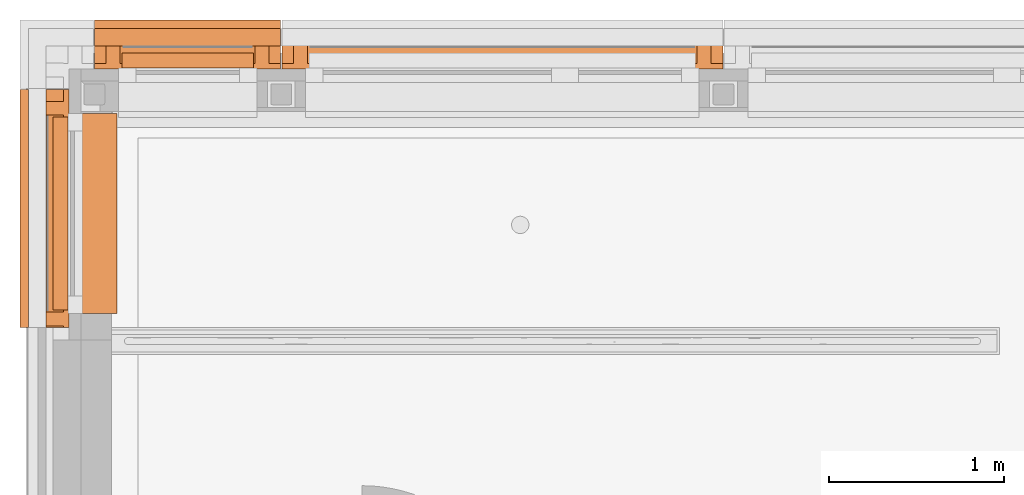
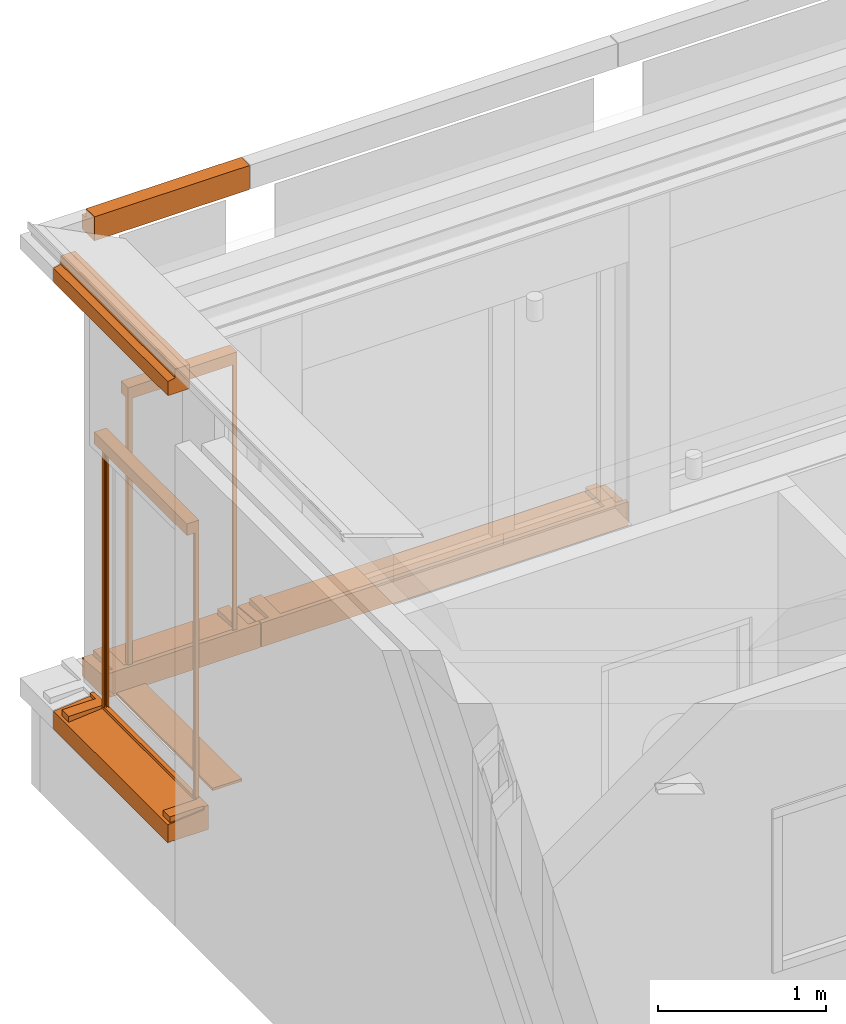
# One storey, part 110 of 128: 8 proxies.
"""IFC2X3 building model written with IfcOpenShell, lengths in millimetres."""

from ifc_helpers import new_model, entity, si_unit, converted_unit, derived_unit, direction, frame, frame_2d, origin, origin_2d_with_axis, place, context, subcontext, project, spatial, polyline, circle_curve, parameter, trimmed, segment, composite_curve, rectangle, outline, extrude, source, transform, mapped, material, material_list, type_object, type_shapes, element, save


model = new_model("IFC2X3")

# Units and contexts
model_context = context("Model", 3, precision=0.01, world=origin(), true_north=direction((6.123031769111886e-17, 1.0)))
body_context = subcontext(model_context, "Body", "Model", "MODEL_VIEW")
ifc_project = project(units=[si_unit("LENGTHUNIT", "METRE", prefix="MILLI"), si_unit("AREAUNIT", "SQUARE_METRE"), si_unit("VOLUMEUNIT", "CUBIC_METRE"), converted_unit("PLANEANGLEUNIT", "DEGREE", entity("IfcRatioMeasure", 0.017453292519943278), si_unit("PLANEANGLEUNIT", "RADIAN"), dimensions=[0, 0, 0, 0, 0, 0, 0]), si_unit("MASSUNIT", "GRAM", prefix="KILO"), derived_unit("MASSDENSITYUNIT", [(si_unit("MASSUNIT", "GRAM", prefix="KILO"), 1), (si_unit("LENGTHUNIT", "METRE"), -3)]), derived_unit("IONCONCENTRATIONUNIT", [(si_unit("MASSUNIT", "GRAM", prefix="KILO"), 1), (si_unit("LENGTHUNIT", "METRE"), -3)]), derived_unit("MOMENTOFINERTIAUNIT", [(si_unit("LENGTHUNIT", "METRE"), 4)]), si_unit("TIMEUNIT", "SECOND"), si_unit("FREQUENCYUNIT", "HERTZ"), si_unit("THERMODYNAMICTEMPERATUREUNIT", "DEGREE_CELSIUS"), derived_unit("THERMALTRANSMITTANCEUNIT", [(si_unit("MASSUNIT", "GRAM", prefix="KILO"), 1), (si_unit("THERMODYNAMICTEMPERATUREUNIT", "KELVIN"), -1), (si_unit("TIMEUNIT", "SECOND"), -3)]), derived_unit("THERMALCONDUCTANCEUNIT", [(si_unit("MASSUNIT", "GRAM", prefix="KILO"), 1), (si_unit("THERMODYNAMICTEMPERATUREUNIT", "KELVIN"), -1), (si_unit("TIMEUNIT", "SECOND"), -3), (si_unit("LENGTHUNIT", "METRE"), 1)]), derived_unit("VOLUMETRICFLOWRATEUNIT", [(si_unit("LENGTHUNIT", "METRE"), 3), (si_unit("TIMEUNIT", "SECOND"), -1)]), derived_unit("MASSFLOWRATEUNIT", [(si_unit("MASSUNIT", "GRAM", prefix="KILO"), 1), (si_unit("TIMEUNIT", "SECOND"), -1)]), derived_unit("ROTATIONALFREQUENCYUNIT", [(si_unit("TIMEUNIT", "SECOND"), -1)]), si_unit("ELECTRICCURRENTUNIT", "AMPERE"), si_unit("ELECTRICVOLTAGEUNIT", "VOLT"), si_unit("POWERUNIT", "WATT"), si_unit("FORCEUNIT", "NEWTON", prefix="KILO"), si_unit("ILLUMINANCEUNIT", "LUX"), si_unit("LUMINOUSFLUXUNIT", "LUMEN"), si_unit("LUMINOUSINTENSITYUNIT", "CANDELA"), derived_unit("USERDEFINED", [(si_unit("MASSUNIT", "GRAM", prefix="KILO"), -1), (si_unit("LENGTHUNIT", "METRE"), -2), (si_unit("TIMEUNIT", "SECOND"), 3), (si_unit("LUMINOUSFLUXUNIT", "LUMEN"), 1)]), derived_unit("USERDEFINED", [(si_unit("MASSUNIT", "GRAM", prefix="KILO"), 1), (si_unit("TIMEUNIT", "SECOND"), -3), (si_unit("LENGTHUNIT", "METRE"), 3), (si_unit("ELECTRICCURRENTUNIT", "AMPERE"), -2)]), derived_unit("SOUNDPOWERUNIT", [(si_unit("MASSUNIT", "GRAM", prefix="KILO"), 1), (si_unit("TIMEUNIT", "SECOND"), -3), (si_unit("LENGTHUNIT", "METRE"), 2)]), derived_unit("SOUNDPRESSUREUNIT", [(si_unit("MASSUNIT", "GRAM", prefix="KILO"), 1), (si_unit("LENGTHUNIT", "METRE"), -1), (si_unit("TIMEUNIT", "SECOND"), -2)]), derived_unit("LINEARVELOCITYUNIT", [(si_unit("LENGTHUNIT", "METRE"), 1), (si_unit("TIMEUNIT", "SECOND"), -1)]), si_unit("PRESSUREUNIT", "PASCAL"), derived_unit("USERDEFINED", [(si_unit("MASSUNIT", "GRAM", prefix="KILO"), 1), (si_unit("LENGTHUNIT", "METRE"), -2), (si_unit("TIMEUNIT", "SECOND"), -2)]), derived_unit("LINEARFORCEUNIT", [(si_unit("MASSUNIT", "GRAM", prefix="KILO"), 1), (si_unit("TIMEUNIT", "SECOND"), -2)]), derived_unit("PLANARFORCEUNIT", [(si_unit("MASSUNIT", "GRAM", prefix="KILO"), 1), (si_unit("LENGTHUNIT", "METRE"), -1), (si_unit("TIMEUNIT", "SECOND"), -2)]), derived_unit("SPECIFICHEATCAPACITYUNIT", [(si_unit("THERMODYNAMICTEMPERATUREUNIT", "KELVIN"), -1), (si_unit("LENGTHUNIT", "METRE"), 2), (si_unit("TIMEUNIT", "SECOND"), -2)]), derived_unit("HEATINGVALUEUNIT", [(si_unit("LENGTHUNIT", "METRE"), 2), (si_unit("TIMEUNIT", "SECOND"), -2)]), derived_unit("VAPORPERMEABILITYUNIT", [(si_unit("LENGTHUNIT", "METRE"), -1), (si_unit("TIMEUNIT", "SECOND"), 1)]), derived_unit("DYNAMICVISCOSITYUNIT", [(si_unit("MASSUNIT", "GRAM", prefix="KILO"), 1), (si_unit("TIMEUNIT", "SECOND"), -1), (si_unit("LENGTHUNIT", "METRE"), -1)]), derived_unit("THERMALEXPANSIONCOEFFICIENTUNIT", [(si_unit("THERMODYNAMICTEMPERATUREUNIT", "KELVIN"), -1)]), derived_unit("MODULUSOFELASTICITYUNIT", [(si_unit("MASSUNIT", "GRAM", prefix="KILO"), 1), (si_unit("LENGTHUNIT", "METRE"), -1), (si_unit("TIMEUNIT", "SECOND"), -2)]), derived_unit("ISOTHERMALMOISTURECAPACITYUNIT", [(si_unit("LENGTHUNIT", "METRE"), 3), (si_unit("MASSUNIT", "GRAM", prefix="KILO"), -1)]), derived_unit("MOISTUREDIFFUSIVITYUNIT", [(si_unit("TIMEUNIT", "SECOND"), -1), (si_unit("LENGTHUNIT", "METRE"), 2)])], contexts=[model_context])

# Site, building, storey
site_placement = place(None, frame((0.0, 300.0, 0.0)))
site = spatial("IfcSite", under=ifc_project, at=site_placement, Name="<Kadastrale nummers>", CompositionType="ELEMENT")
building_placement = place(site_placement, origin())
building = spatial("IfcBuilding", under=site, at=building_placement, CompositionType="ELEMENT")
storey_placement = place(building_placement, frame((0.0, 0.0, 3560.0000331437)))
storey = spatial("IfcBuildingStorey", under=building, at=storey_placement, Name="01 eerste verdieping", CompositionType="ELEMENT", Elevation=3560.0000331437)

# Proxies
ifc_material_1 = material(Name="ISR_Beton_prefab")
building_element_proxy_type_1 = type_object("IfcBuildingElementProxyType", Name="29_DAT_Prefab betonnen waterslag lang:22", PredefinedType="NOTDEFINED", material=ifc_material_1)
shared_shape_1 = source(origin(), body_context, "Body", "SweptSolid", [
    extrude(outline(polyline([(-16.052237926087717, -115.0), (26.113434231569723, -115.0), (5.9910416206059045, 115.0), (-16.052237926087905, 115.0), (-16.052237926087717, -115.0)])), frame((2377.0, 75.0, -16.05223792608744), z_axis=(1.0, 0.0, 0.0), x_axis=(0.0, 0.0, -1.0)), (0.0, 0.0, 1.0), 79.99999999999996),
    extrude(outline(polyline([(-16.052237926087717, -115.0), (26.113434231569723, -115.0), (5.9910416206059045, 115.0), (-16.052237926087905, 115.0), (-16.052237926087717, -115.0)])), frame((67.0, 75.0, -16.05223792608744), z_axis=(1.0, 0.0, 0.0), x_axis=(0.0, 0.0, -1.0)), (0.0, 0.0, 1.0), 80.00000000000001),
    extrude(outline(composite_curve([segment(polyline([(-140.0, -95.7340207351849), (-110.0, -95.7340207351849)]), True, "CONTINUOUS"), segment(polyline([(-110.0, -95.7340207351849), (-110.0, -73.7340207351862)]), True, "CONTINUOUS"), segment(polyline([(-110.0, -73.7340207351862), (140.0, -51.861854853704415)]), True, "CONTINUOUS"), segment(polyline([(140.0, -51.86185485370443), (140.0, 79.26597926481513)]), True, "CONTINUOUS"), segment(polyline([(140.0, 79.26597926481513), (115.0, 79.26597926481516)]), True, "CONTINUOUS"), segment(trimmed(circle_curve(frame_2d((110.0, 79.26597926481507), x_axis=(1.0, 0.0)), 5.000000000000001), [parameter(179.99999999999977)], [parameter(4.0711099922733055e-13)], True, "PARAMETER"), False, "CONTINUOUS"), segment(polyline([(105.0, 79.26597926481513), (-140.0, 79.26597926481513)]), True, "CONTINUOUS"), segment(polyline([(-140.0, 79.26597926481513), (-140.0, -95.7340207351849)]), True, "CONTINUOUS")], self_intersect=False)), frame((0.0, 80.0, -95.73402073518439), z_axis=(1.0, 0.0, 0.0), x_axis=(0.0, -1.0, 0.0)), (0.0, 0.0, 1.0), 2524.0000000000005),
])
type_shapes(building_element_proxy_type_1, [shared_shape_1])
proxy_1_placement = place(storey_placement, frame((6597.0, 50165.0, 890.0000018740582), z_axis=(0.0, 0.0, 1.0), x_axis=(-1.0, 0.0, 0.0)))
element("IfcBuildingElementProxy", 1, at=proxy_1_placement, inside=storey, type_object=building_element_proxy_type_1, material=ifc_material_1, Name="29_DAT_Prefab betonnen waterslag lang:22", ObjectType="29_DAT_Prefab betonnen waterslag lang:22", context=body_context, shape_type="MappedRepresentation", body=[
    mapped(shared_shape_1, transform((0.0, 0.0, 0.0), scale=1.0)),
])
ifc_material_2 = material(Name="STAAL_RAL 7006")
ifc_material_3 = material(Name="<Unnamed>")
ifc_material_list = material_list([ifc_material_2, ifc_material_3])
building_element_proxy_type_2 = type_object("IfcBuildingElementProxyType", Name="31_DAT_Screen_zonwering_bak85:31_DAT_Screen_zonwering_bak85", PredefinedType="NOTDEFINED", material=ifc_material_list)
shared_shape_2 = source(origin(), body_context, "Body", "SweptSolid", [
    extrude(outline(polyline([(-60.69864841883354, -53.573897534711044), (20.695945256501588, -53.573897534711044), (20.695945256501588, 1.1216926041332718), (22.501351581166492, 1.1216926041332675), (22.501351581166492, 24.626102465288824), (17.501351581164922, 24.626102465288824), (17.501351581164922, 27.826102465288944), (-60.69864841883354, 27.826102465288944), (-60.69864841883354, -53.573897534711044)])), frame((748.0, -29.62610246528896, 2752.501351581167), z_axis=(1.0, 0.0, 0.0), x_axis=(0.0, 0.0, -1.0)), (0.0, 0.0, 1.0), 1.9999999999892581),
    extrude(outline(polyline([(-55.83243227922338, -51.08259835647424), (29.167567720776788, -51.08259835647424), (29.167567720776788, 5.412991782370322), (27.362161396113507, 5.412991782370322), (27.362161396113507, -49.28259835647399), (-54.032432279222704, -49.28259835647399), (-54.032432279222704, 32.117401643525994), (24.16756772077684, 32.117401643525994), (24.16756772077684, 28.91740164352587), (29.167567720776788, 28.91740164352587), (29.167567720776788, 33.917401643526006), (-55.83243227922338, 33.917401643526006), (-55.83243227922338, -51.08259835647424)])), frame((0.0, -33.917401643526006, 2759.1675677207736), z_axis=(1.0, 0.0, 0.0), x_axis=(0.0, 0.0, -1.0)), (0.0, 0.0, 1.0), 749.9999999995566),
    extrude(outline(polyline([(-60.69864841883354, -53.573897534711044), (20.695945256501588, -53.573897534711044), (20.695945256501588, 1.1216926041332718), (22.501351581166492, 1.1216926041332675), (22.501351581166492, 24.626102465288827), (17.501351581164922, 24.626102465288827), (17.501351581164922, 27.826102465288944), (-60.69864841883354, 27.826102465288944), (-60.69864841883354, -53.573897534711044)])), frame((0.0, -29.62610246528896, 2752.501351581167), z_axis=(1.0, 0.0, 0.0), x_axis=(0.0, 0.0, -1.0)), (0.0, 0.0, 1.0), 1.999999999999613),
    extrude(rectangle(XDim=709.9999999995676, YDim=1.163311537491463, at=frame_2d((0.0, -2.1094237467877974e-15), x_axis=(1.0, 0.0))), frame((375.0, -20.037293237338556, 2730.0)), (0.0, 0.0, 1.0), 61.996041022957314),
    extrude(outline(composite_curve([segment(polyline([(-7.502327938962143, -23.023758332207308), (7.497672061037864, -23.023758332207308)]), True, "CONTINUOUS"), segment(trimmed(circle_curve(frame_2d((7.497672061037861, -21.523758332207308), x_axis=(0.0, -1.0)), 1.4999999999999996), [parameter(359.99999999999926)], [parameter(90.00000000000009)], True, "PARAMETER"), True, "CONTINUOUS"), segment(polyline([(8.997672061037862, -21.523758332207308), (8.997672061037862, 8.976241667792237)]), True, "CONTINUOUS"), segment(trimmed(circle_curve(frame_2d((5.99767206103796, 8.976241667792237), x_axis=(0.0, -1.0)), 3.0), [parameter(90.00000000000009)], [parameter(172.84454900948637)], True, "PARAMETER"), True, "CONTINUOUS"), segment(polyline([(6.371357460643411, 11.952877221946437), (2.232090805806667, 12.470504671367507)]), True, "CONTINUOUS"), segment(trimmed(circle_curve(frame_2d((2.1399803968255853, 11.733933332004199), x_axis=(0.0, -1.0)), 0.7423083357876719), [parameter(172.87199730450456)], [parameter(323.5235343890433)], True, "PARAMETER"), True, "CONTINUOUS"), segment(trimmed(circle_curve(frame_2d((-0.0023279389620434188, 8.976241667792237), x_axis=(0.0, -1.0)), 2.75), [parameter(217.47327986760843)], [parameter(141.78969998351)], True, "PARAMETER"), False, "CONTINUOUS"), segment(trimmed(circle_curve(frame_2d((-2.144636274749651, 11.733933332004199), x_axis=(0.0, -1.0)), 0.7423083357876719), [parameter(39.207114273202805)], [parameter(187.12800269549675)], True, "PARAMETER"), True, "CONTINUOUS"), segment(polyline([(-2.2367466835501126, 12.470504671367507), (-6.376013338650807, 11.95287722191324)]), True, "CONTINUOUS"), segment(trimmed(circle_curve(frame_2d((-6.002327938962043, 8.976241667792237), x_axis=(0.0, -1.0)), 3.0), [parameter(187.1554509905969)], [parameter(269.9999999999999)], True, "PARAMETER"), True, "CONTINUOUS"), segment(polyline([(-9.002327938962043, 8.976241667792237), (-9.002327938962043, -21.523758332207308)]), True, "CONTINUOUS"), segment(trimmed(circle_curve(frame_2d((-7.502327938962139, -21.523758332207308), x_axis=(0.0, -1.0)), 1.5000000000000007), [parameter(269.9999999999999)], [parameter(359.9999999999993)], True, "PARAMETER"), True, "CONTINUOUS")], self_intersect=False)), frame((20.0, -19.997672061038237, 2785.0197993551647), z_axis=(1.0, 0.0, 0.0), x_axis=(0.0, 1.0, 0.0)), (0.0, 0.0, 1.0), 709.9999999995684),
    extrude(outline(polyline([(-14.638298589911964, -16.231574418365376), (-13.138298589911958, -16.231574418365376), (-13.138298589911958, 12.232729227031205), (-6.116685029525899, 12.232729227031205), (-6.116685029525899, -6.231574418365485), (-1.116685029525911, -6.231574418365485), (-1.116685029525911, -4.769580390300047), (-4.579546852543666, -4.769580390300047), (-4.579546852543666, 12.23272922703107), (13.86611127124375, 12.23272922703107), (13.86611127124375, -4.769580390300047), (10.36170141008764, -4.769580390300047), (10.36170141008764, -6.2315744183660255), (15.36170141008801, -6.2315744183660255), (15.36170141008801, 13.768425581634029), (-14.638298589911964, 13.768425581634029), (-14.638298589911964, -16.231574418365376)])), frame((736.2315744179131, -14.638298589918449, 800.0), z_axis=(0.0, 0.0, 1.0), x_axis=(0.0, -1.0, 0.0)), (0.0, 0.0, 1.0), 1930.000000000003),
    extrude(outline(polyline([(-16.231574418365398, -14.638298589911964), (13.768425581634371, -14.638298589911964), (13.76842558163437, 15.361701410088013), (-6.231574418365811, 15.361701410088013), (-6.231574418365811, 10.361701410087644), (-4.769580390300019, 10.361701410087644), (-4.769580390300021, 13.866111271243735), (12.2327292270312, 13.866111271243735), (12.2327292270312, -4.57954685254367), (-4.769580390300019, -4.57954685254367), (-4.769580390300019, -1.1166850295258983), (-6.231574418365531, -1.1166850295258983), (-6.231574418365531, -6.116685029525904), (12.232729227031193, -6.116685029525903), (12.232729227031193, -13.138298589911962), (-16.231574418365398, -13.138298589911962), (-16.231574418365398, -14.638298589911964)])), frame((13.768425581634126, -14.638298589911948, 800.0), z_axis=(0.0, 0.0, 1.0), x_axis=(-1.0, 0.0, 0.0)), (0.0, 0.0, 1.0), 1930.0000000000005),
])
type_shapes(building_element_proxy_type_2, [shared_shape_2])
proxy_2_placement = place(storey_placement, frame((3910.0, 49951.0, 100.00000187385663), z_axis=(0.0, 0.0, 1.0), x_axis=(-1.0, 0.0, 0.0)))
element("IfcBuildingElementProxy", 2, at=proxy_2_placement, inside=storey, type_object=building_element_proxy_type_2, material=ifc_material_list, Name="31_DAT_Screen_zonwering_bak85:31_DAT_Screen_zonwering_bak85", ObjectType="31_DAT_Screen_zonwering_bak85:31_DAT_Screen_zonwering_bak85", context=body_context, shape_type="MappedRepresentation", body=[
    mapped(shared_shape_2, transform((0.0, 0.0, 0.0), scale=1.0)),
])
building_element_proxy_type_3 = type_object("IfcBuildingElementProxyType", Name="29_DAT_Prefab betonnen waterslag lang:25", PredefinedType="NOTDEFINED", material=ifc_material_1)
shared_shape_3 = source(origin(), body_context, "Body", "SweptSolid", [
    extrude(outline(polyline([(-115.0, -16.052237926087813), (115.0, -16.05223792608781), (115.0, 5.991041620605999), (-115.0, 26.113434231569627), (-115.0, -16.052237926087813)])), frame((1215.0, -75.0, -16.05223792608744), z_axis=(1.0, 0.0, 0.0), x_axis=(0.0, -1.0, 0.0)), (0.0, 0.0, 1.0), 79.99999999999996),
    extrude(outline(polyline([(-115.0, -16.052237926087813), (115.0, -16.05223792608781), (115.0, 5.991041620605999), (-115.0, 26.113434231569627), (-115.0, -16.052237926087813)])), frame((10.0, -75.0, -16.05223792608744), z_axis=(1.0, 0.0, 0.0), x_axis=(0.0, -1.0, 0.0)), (0.0, 0.0, 1.0), 80.00000000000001),
    extrude(outline(composite_curve([segment(polyline([(-95.7340207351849, -140.0), (79.26597926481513, -140.0)]), True, "CONTINUOUS"), segment(polyline([(79.26597926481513, -140.0), (79.26597926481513, 105.0)]), True, "CONTINUOUS"), segment(trimmed(circle_curve(frame_2d((79.26597926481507, 110.0), x_axis=(0.0, 1.0)), 5.000000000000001), [parameter(359.9999999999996)], [parameter(180.00000000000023)], True, "PARAMETER"), False, "CONTINUOUS"), segment(polyline([(79.26597926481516, 115.0), (79.26597926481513, 140.0)]), True, "CONTINUOUS"), segment(polyline([(79.26597926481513, 140.0), (-51.86185485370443, 140.0)]), True, "CONTINUOUS"), segment(polyline([(-51.861854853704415, 140.0), (-73.7340207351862, -110.0)]), True, "CONTINUOUS"), segment(polyline([(-73.7340207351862, -110.0), (-95.7340207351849, -110.0)]), True, "CONTINUOUS"), segment(polyline([(-95.7340207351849, -110.0), (-95.7340207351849, -140.0)]), True, "CONTINUOUS")], self_intersect=False)), frame((0.0, -80.0, -95.73402073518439), z_axis=(1.0, 0.0, 0.0), x_axis=(0.0, 0.0, -1.0)), (0.0, 0.0, 1.0), 1362.0000000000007),
])
type_shapes(building_element_proxy_type_3, [shared_shape_3])
proxy_3_placement = place(storey_placement, frame((2635.0, 48465.0, 890.0000018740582), z_axis=(0.0, 0.0, 1.0), x_axis=(0.0, 1.0, 0.0)))
element("IfcBuildingElementProxy", 3, at=proxy_3_placement, inside=storey, type_object=building_element_proxy_type_3, material=ifc_material_1, Name="29_DAT_Prefab betonnen waterslag lang:25", ObjectType="29_DAT_Prefab betonnen waterslag lang:25", context=body_context, shape_type="MappedRepresentation", body=[
    mapped(shared_shape_3, transform((0.0, 0.0, 0.0), scale=1.0)),
])
building_element_proxy_type_4 = type_object("IfcBuildingElementProxyType", Name="31_DAT_Screen_zonwering_bak85:31_DAT_Screen_zonwering_bak85", PredefinedType="NOTDEFINED", material=ifc_material_list)
shared_shape_4 = source(origin(), body_context, "Body", "SweptSolid", [
    extrude(outline(polyline([(-53.573897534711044, -60.698648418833), (27.826102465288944, -60.698648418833), (27.826102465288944, 17.501351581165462), (24.626102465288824, 17.501351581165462), (24.626102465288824, 22.501351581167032), (1.1216926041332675, 22.501351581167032), (1.1216926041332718, 20.695945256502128), (-53.573897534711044, 20.695945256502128), (-53.573897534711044, -60.698648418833)])), frame((1103.0, 29.62610246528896, 2752.5013515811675), z_axis=(1.0, 0.0, 0.0), x_axis=(0.0, -1.0, 0.0)), (0.0, 0.0, 1.0), 1.9999999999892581),
    extrude(outline(polyline([(-51.082598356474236, -55.832432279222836), (33.91740164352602, -55.832432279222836), (33.91740164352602, 29.167567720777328), (28.91740164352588, 29.167567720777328), (28.91740164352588, 24.16756772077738), (32.117401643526, 24.16756772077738), (32.117401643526, -54.032432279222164), (-49.28259835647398, -54.032432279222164), (-49.28259835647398, 27.362161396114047), (5.41299178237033, 27.362161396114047), (5.41299178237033, 29.167567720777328), (-51.082598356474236, 29.167567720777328), (-51.082598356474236, -55.832432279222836)])), frame((0.0, 33.91740164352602, 2759.167567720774), z_axis=(1.0, 0.0, 0.0), x_axis=(0.0, -1.0, 0.0)), (0.0, 0.0, 1.0), 1104.9999999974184),
    extrude(outline(polyline([(-53.573897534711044, -60.698648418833), (27.826102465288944, -60.698648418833), (27.826102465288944, 17.501351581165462), (24.626102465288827, 17.501351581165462), (24.626102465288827, 22.501351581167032), (1.1216926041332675, 22.501351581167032), (1.1216926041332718, 20.695945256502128), (-53.573897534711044, 20.695945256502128), (-53.573897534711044, -60.698648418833)])), frame((0.0, 29.62610246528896, 2752.5013515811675), z_axis=(1.0, 0.0, 0.0), x_axis=(0.0, -1.0, 0.0)), (0.0, 0.0, 1.0), 1.999999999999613),
    extrude(rectangle(XDim=1.163311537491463, YDim=1064.9999999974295, at=frame_2d((2.1094237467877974e-15, 0.0), x_axis=(1.0, 0.0))), frame((552.4999999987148, 20.03729323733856, 2730.0), z_axis=(0.0, 0.0, 1.0), x_axis=(0.0, -1.0, 0.0)), (0.0, 0.0, 1.0), 39.999964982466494),
    extrude(outline(composite_curve([segment(trimmed(circle_curve(frame_2d((21.52375833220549, 7.502327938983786), x_axis=(1.0, 0.0)), 1.5000000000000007), [parameter(6.615553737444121e-13)], [parameter(90.00000000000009)], True, "PARAMETER"), True, "CONTINUOUS"), segment(polyline([(21.52375833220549, 9.00232793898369), (-8.976241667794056, 9.00232793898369)]), True, "CONTINUOUS"), segment(trimmed(circle_curve(frame_2d((-8.976241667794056, 6.00232793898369), x_axis=(1.0, 0.0)), 3.0), [parameter(90.00000000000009)], [parameter(172.8445490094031)], True, "PARAMETER"), True, "CONTINUOUS"), segment(polyline([(-11.952877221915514, 6.376013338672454), (-12.470504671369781, 2.2367466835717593)]), True, "CONTINUOUS"), segment(trimmed(circle_curve(frame_2d((-11.733933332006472, 2.1446362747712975), x_axis=(1.0, 0.0)), 0.7423083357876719), [parameter(172.87199730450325)], [parameter(320.7928857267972)], True, "PARAMETER"), True, "CONTINUOUS"), segment(trimmed(circle_curve(frame_2d((-8.976241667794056, 0.002327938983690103), x_axis=(1.0, 0.0)), 2.75), [parameter(218.21030001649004)], [parameter(142.52672013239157)], True, "PARAMETER"), False, "CONTINUOUS"), segment(trimmed(circle_curve(frame_2d((-11.733933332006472, -2.1399803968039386), x_axis=(1.0, 0.0)), 0.7423083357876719), [parameter(36.476465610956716)], [parameter(187.12800269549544)], True, "PARAMETER"), True, "CONTINUOUS"), segment(polyline([(-12.470504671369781, -2.2320908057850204), (-11.952877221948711, -6.3713574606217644)]), True, "CONTINUOUS"), segment(trimmed(circle_curve(frame_2d((-8.976241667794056, -5.9976720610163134), x_axis=(1.0, 0.0)), 3.0), [parameter(187.15545099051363)], [parameter(269.9999999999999)], True, "PARAMETER"), True, "CONTINUOUS"), segment(polyline([(-8.976241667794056, -8.997672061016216), (21.52375833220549, -8.997672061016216)]), True, "CONTINUOUS"), segment(trimmed(circle_curve(frame_2d((21.52375833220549, -7.497672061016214), x_axis=(1.0, 0.0)), 1.4999999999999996), [parameter(269.9999999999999)], [parameter(7.124442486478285e-13)], True, "PARAMETER"), True, "CONTINUOUS"), segment(polyline([(23.023758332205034, -7.4976720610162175), (23.023758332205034, 7.50232793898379)]), True, "CONTINUOUS")], self_intersect=False)), frame((20.0, 19.99767206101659, 2763.0237233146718), z_axis=(1.0, 0.0, 0.0), x_axis=(0.0, 0.0, -1.0)), (0.0, 0.0, 1.0), 1064.99999999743),
    extrude(outline(polyline([(-16.231574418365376, -14.63829858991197), (13.768425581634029, -14.63829858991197), (13.768425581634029, 15.361701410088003), (-6.2315744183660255, 15.361701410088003), (-6.2315744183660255, 10.361701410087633), (-4.769580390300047, 10.361701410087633), (-4.769580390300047, 13.866111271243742), (12.23272922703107, 13.866111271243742), (12.23272922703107, -4.579546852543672), (-4.769580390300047, -4.579546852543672), (-4.769580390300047, -1.1166850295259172), (-6.231574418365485, -1.1166850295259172), (-6.231574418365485, -6.116685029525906), (12.232729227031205, -6.116685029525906), (12.232729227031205, -13.138298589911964), (-16.231574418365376, -13.138298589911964), (-16.231574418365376, -14.63829858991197)])), frame((1091.231574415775, 14.63829858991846, 800.0)), (0.0, 0.0, 1.0), 1930.000000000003),
    extrude(outline(polyline([(-14.638298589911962, -16.231574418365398), (-13.13829858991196, -16.231574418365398), (-13.13829858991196, 12.232729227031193), (-6.116685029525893, 12.232729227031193), (-6.116685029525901, -6.231574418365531), (-1.116685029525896, -6.231574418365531), (-1.116685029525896, -4.769580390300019), (-4.579546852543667, -4.769580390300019), (-4.579546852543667, 12.2327292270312), (13.866111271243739, 12.2327292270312), (13.866111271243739, -4.769580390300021), (10.361701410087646, -4.769580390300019), (10.361701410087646, -6.231574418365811), (15.361701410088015, -6.231574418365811), (15.361701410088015, 13.76842558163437), (-14.638298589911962, 13.76842558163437), (-14.638298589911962, -16.231574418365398)])), frame((13.768425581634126, 14.638298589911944, 800.0), z_axis=(0.0, 0.0, 1.0), x_axis=(0.0, 1.0, 0.0)), (0.0, 0.0, 1.0), 1930.0000000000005),
])
type_shapes(building_element_proxy_type_4, [shared_shape_4])
proxy_4_placement = place(storey_placement, frame((2848.998623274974, 48565.0, 90.00000187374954), z_axis=(0.0, 0.0, 1.0), x_axis=(0.0, 1.0, 0.0)))
element("IfcBuildingElementProxy", 4, at=proxy_4_placement, inside=storey, type_object=building_element_proxy_type_4, material=ifc_material_list, Name="31_DAT_Screen_zonwering_bak85:31_DAT_Screen_zonwering_bak85", ObjectType="31_DAT_Screen_zonwering_bak85:31_DAT_Screen_zonwering_bak85", context=body_context, shape_type="MappedRepresentation", body=[
    mapped(shared_shape_4, transform((0.0, 0.0, 0.0), scale=1.0)),
])
building_element_proxy_type_5 = type_object("IfcBuildingElementProxyType", Name="29_DAT_Prefab betonband afgeschuind:29_DAT_Prefab betonband afgeschuind", PredefinedType="NOTDEFINED", material=ifc_material_1)
shared_shape_5 = source(origin(), body_context, "Body", "SweptSolid", [
    extrude(outline(polyline([(-83.33333333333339, -94.16666666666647), (66.66666666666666, -94.16666666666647), (66.66666666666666, 8.333333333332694), (16.66666666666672, 18.33333333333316), (16.666666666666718, 80.83333333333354), (-83.33333333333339, 80.83333333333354), (-83.33333333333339, -94.16666666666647)])), frame((0.0, -16.66666666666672, -18.33333333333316), z_axis=(1.0, 0.0, 0.0), x_axis=(0.0, 1.0, 0.0)), (0.0, 0.0, 1.0), 1361.9999999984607),
])
type_shapes(building_element_proxy_type_5, [shared_shape_5])
proxy_5_placement = place(storey_placement, frame((2625.0, 48465.0, 4077.499966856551), z_axis=(0.0, 0.0, 1.0), x_axis=(0.0, 1.0, 0.0)))
element("IfcBuildingElementProxy", 5, at=proxy_5_placement, inside=storey, type_object=building_element_proxy_type_5, material=ifc_material_1, Name="29_DAT_Prefab betonband afgeschuind:29_DAT_Prefab betonband afgeschuind", ObjectType="29_DAT_Prefab betonband afgeschuind:29_DAT_Prefab betonband afgeschuind", context=body_context, shape_type="MappedRepresentation", body=[
    mapped(shared_shape_5, transform((0.0, 0.0, 0.0), scale=1.0)),
])
ifc_material_4 = material(Name="e1_natuursteen")
building_element_proxy_type_6 = type_object("IfcBuildingElementProxyType", Name="NLRS_31_GM_WPB_vensterbank natuursteen -SH_gen_ASN:200x18", PredefinedType="USERDEFINED", material=ifc_material_4)
shared_shape_6 = source(origin(), body_context, "Body", "SweptSolid", [
    extrude(rectangle(XDim=200.0, YDim=1144.9999999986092, at=origin_2d_with_axis()), frame((0.0, -100.0, 0.0), z_axis=(0.0, 0.0, 1.0), x_axis=(0.0, -1.0, 0.0)), (0.0, 0.0, 1.0), 17.999999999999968),
])
type_shapes(building_element_proxy_type_6, [shared_shape_6])
proxy_6_placement = place(storey_placement, frame((2930.0, 49117.49999999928, 920.0000018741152), z_axis=(0.0, 0.0, 1.0), x_axis=(0.0, 1.0, 0.0)))
element("IfcBuildingElementProxy", 6, at=proxy_6_placement, inside=storey, type_object=building_element_proxy_type_6, material=ifc_material_4, Name="NLRS_31_GM_WPB_vensterbank natuursteen -SH_gen_ASN:200x18", ObjectType="NLRS_31_GM_WPB_vensterbank natuursteen -SH_gen_ASN:200x18", context=body_context, shape_type="MappedRepresentation", body=[
    mapped(shared_shape_6, transform((0.0, 0.0, 0.0), scale=1.0)),
])
building_element_proxy_type_7 = type_object("IfcBuildingElementProxyType", Name="29_DAT_Prefab betonnen waterslag lang:29 enkel", PredefinedType="NOTDEFINED", material=ifc_material_1)
shared_shape_7 = source(origin(), body_context, "Body", "SweptSolid", [
    extrude(outline(polyline([(-16.052237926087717, -115.0), (26.113434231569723, -115.0), (5.9910416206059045, 115.0), (-16.052237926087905, 115.0), (-16.052237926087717, -115.0)])), frame((920.0, 75.0, -16.05223792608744), z_axis=(1.0, 0.0, 0.0), x_axis=(0.0, 0.0, -1.0)), (0.0, 0.0, 1.0), 79.99999999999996),
    extrude(outline(polyline([(-16.052237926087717, -115.0), (26.113434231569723, -115.0), (5.9910416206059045, 115.0), (-16.052237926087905, 115.0), (-16.052237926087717, -115.0)])), frame((67.0, 75.0, -16.05223792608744), z_axis=(1.0, 0.0, 0.0), x_axis=(0.0, 0.0, -1.0)), (0.0, 0.0, 1.0), 80.00000000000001),
    extrude(outline(composite_curve([segment(polyline([(-140.0, -95.7340207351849), (-110.0, -95.7340207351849)]), True, "CONTINUOUS"), segment(polyline([(-110.0, -95.7340207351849), (-110.0, -73.7340207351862)]), True, "CONTINUOUS"), segment(polyline([(-110.0, -73.7340207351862), (140.0, -51.861854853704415)]), True, "CONTINUOUS"), segment(polyline([(140.0, -51.86185485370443), (140.0, 79.26597926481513)]), True, "CONTINUOUS"), segment(polyline([(140.0, 79.26597926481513), (115.0, 79.26597926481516)]), True, "CONTINUOUS"), segment(trimmed(circle_curve(frame_2d((110.0, 79.26597926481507), x_axis=(1.0, 0.0)), 5.000000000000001), [parameter(179.99999999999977)], [parameter(4.0711099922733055e-13)], True, "PARAMETER"), False, "CONTINUOUS"), segment(polyline([(105.0, 79.26597926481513), (-140.0, 79.26597926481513)]), True, "CONTINUOUS"), segment(polyline([(-140.0, 79.26597926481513), (-140.0, -95.7340207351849)]), True, "CONTINUOUS")], self_intersect=False)), frame((0.0, 80.0, -95.73402073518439), z_axis=(1.0, 0.0, 0.0), x_axis=(0.0, -1.0, 0.0)), (0.0, 0.0, 1.0), 1067.0000000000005),
])
type_shapes(building_element_proxy_type_7, [shared_shape_7])
proxy_7_placement = place(storey_placement, frame((4067.0, 50165.0, 890.000001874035), z_axis=(0.0, 0.0, 1.0), x_axis=(-1.0, 0.0, 0.0)))
element("IfcBuildingElementProxy", 7, at=proxy_7_placement, inside=storey, type_object=building_element_proxy_type_7, material=ifc_material_1, Name="29_DAT_Prefab betonnen waterslag lang:29 enkel", ObjectType="29_DAT_Prefab betonnen waterslag lang:29 enkel", context=body_context, shape_type="MappedRepresentation", body=[
    mapped(shared_shape_7, transform((0.0, 0.0, 0.0), scale=1.0)),
])
building_element_proxy_type_8 = type_object("IfcBuildingElementProxyType", Name="29_DAT_Prefab betonband afgeschuind:29_DAT_Prefab betonband afgeschuind", PredefinedType="NOTDEFINED", material=ifc_material_1)
shared_shape_8 = source(origin(), body_context, "Body", "SweptSolid", [
    extrude(outline(polyline([(-94.16666666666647, -83.33333333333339), (80.83333333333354, -83.33333333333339), (80.83333333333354, 16.66666666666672), (18.33333333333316, 16.666666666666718), (8.333333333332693, 66.66666666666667), (-94.16666666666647, 66.66666666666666), (-94.16666666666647, -83.33333333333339)])), frame((0.0, 16.66666666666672, -18.33333333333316), z_axis=(1.0, 0.0, 0.0), x_axis=(0.0, 0.0, 1.0)), (0.0, 0.0, 1.0), 1067.0000000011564),
])
type_shapes(building_element_proxy_type_8, [shared_shape_8])
proxy_8_placement = place(storey_placement, frame((4067.0, 50175.0, 4077.4999668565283), z_axis=(0.0, 0.0, 1.0), x_axis=(-1.0, 0.0, 0.0)))
element("IfcBuildingElementProxy", 8, at=proxy_8_placement, inside=storey, type_object=building_element_proxy_type_8, material=ifc_material_1, Name="29_DAT_Prefab betonband afgeschuind:29_DAT_Prefab betonband afgeschuind", ObjectType="29_DAT_Prefab betonband afgeschuind:29_DAT_Prefab betonband afgeschuind", context=body_context, shape_type="MappedRepresentation", body=[
    mapped(shared_shape_8, transform((0.0, 0.0, 0.0), scale=1.0)),
])

save(model, "model.ifc")
